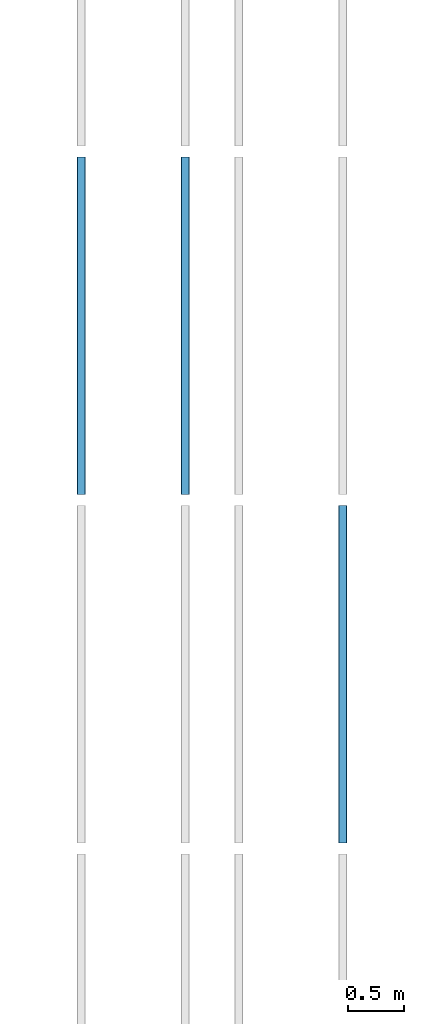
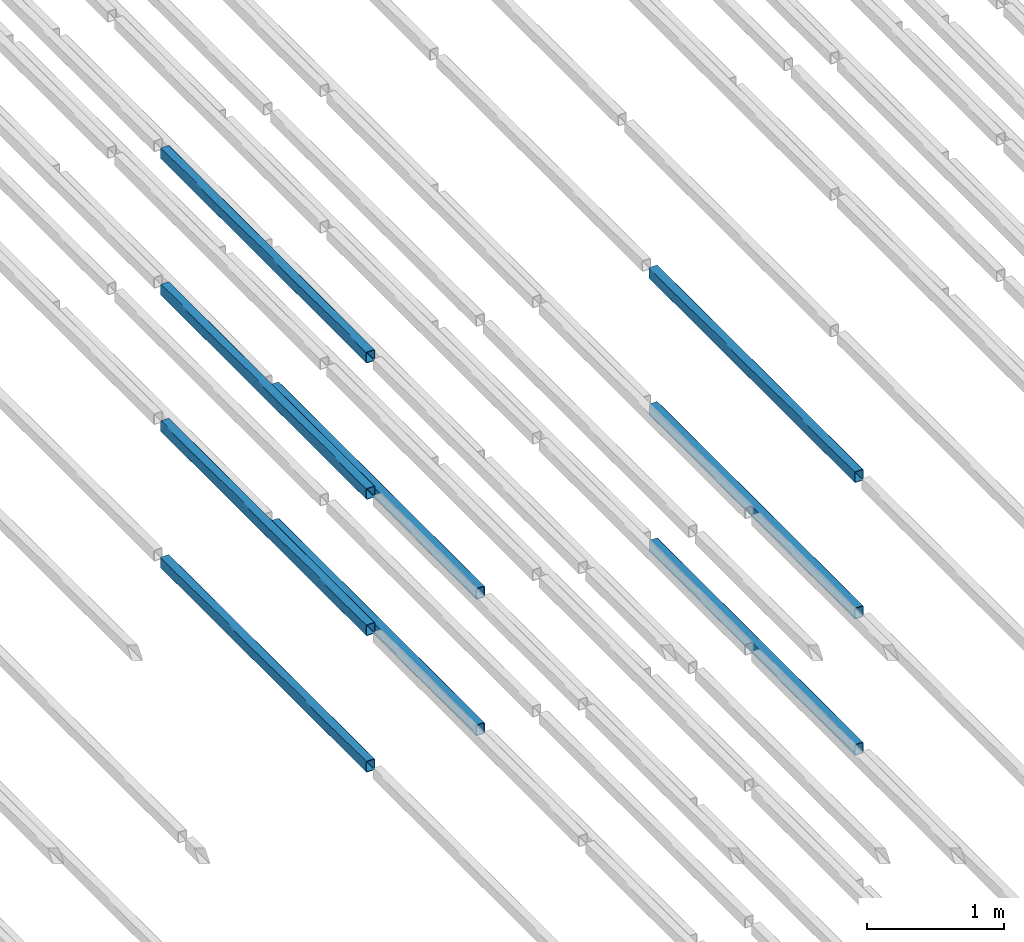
# One storey, part 52 of 290: 9 beams.
"""IFC2X3 building model written with IfcOpenShell, lengths in metres."""

from ifc_helpers import new_model, entity, si_unit, converted_unit, derived_unit, direction, frame, frame_2d, origin, place, context, subcontext, project, spatial, polyline, circle_curve, parameter, trimmed, segment, composite_curve, outline, extrude, material, type_object, element, save


model = new_model("IFC2X3")

# Units and contexts
model_context = context("Model", 3, precision=1e-05, world=origin(), true_north=direction((6.12303176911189e-17, 1.0)))
body_context = subcontext(model_context, "Body", "Model", "MODEL_VIEW")
ifc_project = project(units=[si_unit("LENGTHUNIT", "METRE"), si_unit("AREAUNIT", "SQUARE_METRE"), si_unit("VOLUMEUNIT", "CUBIC_METRE"), converted_unit("PLANEANGLEUNIT", "DEGREE", entity("IfcRatioMeasure", 0.0174532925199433), si_unit("PLANEANGLEUNIT", "RADIAN"), dimensions=[0, 0, 0, 0, 0, 0, 0]), si_unit("MASSUNIT", "GRAM", prefix="KILO"), derived_unit("MASSDENSITYUNIT", [(si_unit("MASSUNIT", "GRAM", prefix="KILO"), 1), (si_unit("LENGTHUNIT", "METRE"), -3)]), derived_unit("MOMENTOFINERTIAUNIT", [(si_unit("LENGTHUNIT", "METRE"), 4)]), si_unit("TIMEUNIT", "SECOND"), si_unit("FREQUENCYUNIT", "HERTZ"), si_unit("THERMODYNAMICTEMPERATUREUNIT", "DEGREE_CELSIUS"), derived_unit("THERMALTRANSMITTANCEUNIT", [(si_unit("MASSUNIT", "GRAM", prefix="KILO"), 1), (si_unit("THERMODYNAMICTEMPERATUREUNIT", "KELVIN"), -1), (si_unit("TIMEUNIT", "SECOND"), -3)]), derived_unit("VOLUMETRICFLOWRATEUNIT", [(si_unit("LENGTHUNIT", "METRE"), 3), (si_unit("TIMEUNIT", "SECOND"), -1)]), si_unit("ELECTRICCURRENTUNIT", "AMPERE"), si_unit("ELECTRICVOLTAGEUNIT", "VOLT"), si_unit("POWERUNIT", "WATT"), si_unit("FORCEUNIT", "NEWTON", prefix="KILO"), si_unit("ILLUMINANCEUNIT", "LUX"), si_unit("LUMINOUSFLUXUNIT", "LUMEN"), si_unit("LUMINOUSINTENSITYUNIT", "CANDELA"), derived_unit("USERDEFINED", [(si_unit("MASSUNIT", "GRAM", prefix="KILO"), -1), (si_unit("LENGTHUNIT", "METRE"), -2), (si_unit("TIMEUNIT", "SECOND"), 3), (si_unit("LUMINOUSFLUXUNIT", "LUMEN"), 1)]), derived_unit("LINEARVELOCITYUNIT", [(si_unit("LENGTHUNIT", "METRE"), 1), (si_unit("TIMEUNIT", "SECOND"), -1)]), si_unit("PRESSUREUNIT", "PASCAL"), derived_unit("USERDEFINED", [(si_unit("LENGTHUNIT", "METRE"), -2), (si_unit("MASSUNIT", "GRAM", prefix="KILO"), 1), (si_unit("TIMEUNIT", "SECOND"), -2)]), derived_unit("LINEARFORCEUNIT", [(si_unit("MASSUNIT", "GRAM", prefix="KILO"), 1), (si_unit("LENGTHUNIT", "METRE"), 1), (si_unit("TIMEUNIT", "SECOND"), -2), (si_unit("LENGTHUNIT", "METRE"), -1)]), derived_unit("PLANARFORCEUNIT", [(si_unit("MASSUNIT", "GRAM", prefix="KILO"), 1), (si_unit("LENGTHUNIT", "METRE"), 1), (si_unit("TIMEUNIT", "SECOND"), -2), (si_unit("LENGTHUNIT", "METRE"), -2)])], contexts=[model_context])

# Site, building, storey
site_placement = place(None, origin())
site = spatial("IfcSite", under=ifc_project, at=site_placement, Name="Default", CompositionType="ELEMENT")
building_placement = place(site_placement, origin())
building = spatial("IfcBuilding", under=site, at=building_placement, CompositionType="ELEMENT")
storey_placement = place(building_placement, frame((0.0, 0.0, 4.0)))
storey = spatial("IfcBuildingStorey", under=building, at=storey_placement, Name="01_OG", CompositionType="ELEMENT", Elevation=4.0)

# Beams
ifc_material = material(Name="Metall - Baustahl S235 blau")
beam_type = type_object("IfcBeamType", Name="RHS Träger (EN 10219-2):RHS 100 x 75 x 5", PredefinedType="NOTDEFINED")
beam_1_placement = place(storey_placement, frame((-188.465111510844, 30.248088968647, 0.0150000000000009), z_axis=(0.0, 0.0, 1.0), x_axis=(0.0, 1.0, 0.0)))
element("IfcBeam", 1, at=beam_1_placement, inside=storey, type_object=beam_type, material=ifc_material, Name="RHS Träger (EN 10219-2):RHS 100 x 75 x 5", ObjectType="RHS Träger (EN 10219-2):RHS 100 x 75 x 5", context=body_context, shape_type="SweptSolid", body=[
    extrude(outline(composite_curve([segment(polyline([(-0.0400000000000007, -0.0374999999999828), (0.0399999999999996, -0.0374999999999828)]), True, "CONTINUOUS"), segment(trimmed(circle_curve(frame_2d((0.0399999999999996, -0.0274999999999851), x_axis=(0.0, 1.0)), 0.01), [parameter(180.0)], [parameter(270.0)], True, "PARAMETER"), True, "CONTINUOUS"), segment(polyline([(0.0499999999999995, -0.0274999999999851), (0.0499999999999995, 0.0274999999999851)]), True, "CONTINUOUS"), segment(trimmed(circle_curve(frame_2d((0.0399999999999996, 0.0274999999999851), x_axis=(0.0, 1.0)), 0.01), [parameter(270.0)], [parameter(4.07110999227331e-13)], True, "PARAMETER"), True, "CONTINUOUS"), segment(polyline([(0.0399999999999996, 0.0375000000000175), (-0.0400000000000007, 0.0375000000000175)]), True, "CONTINUOUS"), segment(trimmed(circle_curve(frame_2d((-0.0400000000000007, 0.0274999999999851), x_axis=(0.0, 1.0)), 0.01), [parameter(360.0)], [parameter(90.0000000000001)], True, "PARAMETER"), True, "CONTINUOUS"), segment(polyline([(-0.0500000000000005, 0.0274999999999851), (-0.0500000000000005, -0.0274999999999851)]), True, "CONTINUOUS"), segment(trimmed(circle_curve(frame_2d((-0.0400000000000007, -0.0274999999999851), x_axis=(0.0, 1.0)), 0.01), [parameter(90.0000000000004)], [parameter(180.0)], True, "PARAMETER"), True, "CONTINUOUS")], self_intersect=False), holes=[composite_curve([segment(trimmed(circle_curve(frame_2d((-0.0400000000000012, 0.0274999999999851), x_axis=(0.0, 1.0)), 0.005), [parameter(360.0)], [parameter(89.9999999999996)], True, "PARAMETER"), False, "CONTINUOUS"), segment(polyline([(-0.0400000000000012, 0.0325000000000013), (0.0399999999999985, 0.0325000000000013)]), True, "CONTINUOUS"), segment(trimmed(circle_curve(frame_2d((0.0399999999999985, 0.0274999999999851), x_axis=(0.0, 1.0)), 0.005), [parameter(270.0)], [parameter(0.0)], True, "PARAMETER"), False, "CONTINUOUS"), segment(polyline([(0.0449999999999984, 0.0274999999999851), (0.0449999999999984, -0.0274999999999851)]), True, "CONTINUOUS"), segment(trimmed(circle_curve(frame_2d((0.0399999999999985, -0.0274999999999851), x_axis=(0.0, 1.0)), 0.005), [parameter(180.0)], [parameter(269.999999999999)], True, "PARAMETER"), False, "CONTINUOUS"), segment(polyline([(0.0399999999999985, -0.0325000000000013), (-0.0400000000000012, -0.0325000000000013)]), True, "CONTINUOUS"), segment(trimmed(circle_curve(frame_2d((-0.0400000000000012, -0.0274999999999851), x_axis=(0.0, 1.0)), 0.005), [parameter(90.0000000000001)], [parameter(180.0)], True, "PARAMETER"), False, "CONTINUOUS"), segment(polyline([(-0.0450000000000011, -0.0274999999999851), (-0.0450000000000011, 0.0274999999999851)]), True, "CONTINUOUS")], self_intersect=False)]), frame((0.000100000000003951, -0.0375000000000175, -0.0500000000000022), z_axis=(1.0, 0.0, 0.0), x_axis=(0.0, 0.0, -1.0)), (0.0, 0.0, 1.0), 2.9998),
])
beam_2_placement = place(storey_placement, frame((-188.465111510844, 30.248088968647, 1.23), z_axis=(0.0, 0.0, 1.0), x_axis=(0.0, 1.0, 0.0)))
element("IfcBeam", 2, at=beam_2_placement, inside=storey, type_object=beam_type, material=ifc_material, Name="RHS Träger (EN 10219-2):RHS 100 x 75 x 5", ObjectType="RHS Träger (EN 10219-2):RHS 100 x 75 x 5", context=body_context, shape_type="SweptSolid", body=[
    extrude(outline(composite_curve([segment(polyline([(-0.0399999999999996, -0.0374999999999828), (0.0399999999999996, -0.0374999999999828)]), True, "CONTINUOUS"), segment(trimmed(circle_curve(frame_2d((0.0399999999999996, -0.0274999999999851), x_axis=(0.0, 1.0)), 0.01), [parameter(180.0)], [parameter(270.0)], True, "PARAMETER"), True, "CONTINUOUS"), segment(polyline([(0.0500000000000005, -0.0274999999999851), (0.0500000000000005, 0.0274999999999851)]), True, "CONTINUOUS"), segment(trimmed(circle_curve(frame_2d((0.0399999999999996, 0.0274999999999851), x_axis=(0.0, 1.0)), 0.01), [parameter(270.0)], [parameter(4.07110999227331e-13)], True, "PARAMETER"), True, "CONTINUOUS"), segment(polyline([(0.0399999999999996, 0.0375000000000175), (-0.0399999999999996, 0.0375000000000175)]), True, "CONTINUOUS"), segment(trimmed(circle_curve(frame_2d((-0.0399999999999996, 0.0274999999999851), x_axis=(0.0, 1.0)), 0.01), [parameter(360.0)], [parameter(90.0000000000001)], True, "PARAMETER"), True, "CONTINUOUS"), segment(polyline([(-0.0499999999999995, 0.0274999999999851), (-0.0499999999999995, -0.0274999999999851)]), True, "CONTINUOUS"), segment(trimmed(circle_curve(frame_2d((-0.0399999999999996, -0.0274999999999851), x_axis=(0.0, 1.0)), 0.01), [parameter(90.0000000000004)], [parameter(180.0)], True, "PARAMETER"), True, "CONTINUOUS")], self_intersect=False), holes=[composite_curve([segment(trimmed(circle_curve(frame_2d((-0.0400000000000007, 0.0274999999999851), x_axis=(0.0, 1.0)), 0.005), [parameter(360.0)], [parameter(89.9999999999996)], True, "PARAMETER"), False, "CONTINUOUS"), segment(polyline([(-0.0400000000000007, 0.0325000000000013), (0.0399999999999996, 0.0325000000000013)]), True, "CONTINUOUS"), segment(trimmed(circle_curve(frame_2d((0.0399999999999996, 0.0274999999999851), x_axis=(0.0, 1.0)), 0.005), [parameter(270.0)], [parameter(0.0)], True, "PARAMETER"), False, "CONTINUOUS"), segment(polyline([(0.0449999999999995, 0.0274999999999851), (0.0449999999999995, -0.0274999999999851)]), True, "CONTINUOUS"), segment(trimmed(circle_curve(frame_2d((0.0399999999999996, -0.0274999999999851), x_axis=(0.0, 1.0)), 0.005), [parameter(180.0)], [parameter(269.999999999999)], True, "PARAMETER"), False, "CONTINUOUS"), segment(polyline([(0.0399999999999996, -0.0325000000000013), (-0.0400000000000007, -0.0325000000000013)]), True, "CONTINUOUS"), segment(trimmed(circle_curve(frame_2d((-0.0400000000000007, -0.0274999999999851), x_axis=(0.0, 1.0)), 0.005), [parameter(90.0000000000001)], [parameter(180.0)], True, "PARAMETER"), False, "CONTINUOUS"), segment(polyline([(-0.0450000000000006, -0.0274999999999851), (-0.0450000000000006, 0.0274999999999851)]), True, "CONTINUOUS")], self_intersect=False)]), frame((0.000100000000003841, -0.0375000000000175, -0.0500000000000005), z_axis=(1.0, 0.0, 0.0), x_axis=(0.0, 0.0, -1.0)), (0.0, 0.0, 1.0), 2.9998),
])
beam_3_placement = place(storey_placement, frame((-188.465111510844, 30.248088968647, 2.445), z_axis=(0.0, 0.0, 1.0), x_axis=(0.0, 1.0, 0.0)))
element("IfcBeam", 3, at=beam_3_placement, inside=storey, type_object=beam_type, material=ifc_material, Name="RHS Träger (EN 10219-2):RHS 100 x 75 x 5", ObjectType="RHS Träger (EN 10219-2):RHS 100 x 75 x 5", context=body_context, shape_type="SweptSolid", body=[
    extrude(outline(composite_curve([segment(polyline([(-0.0399999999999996, -0.0374999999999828), (0.0399999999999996, -0.0374999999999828)]), True, "CONTINUOUS"), segment(trimmed(circle_curve(frame_2d((0.0399999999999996, -0.0274999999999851), x_axis=(0.0, 1.0)), 0.01), [parameter(180.0)], [parameter(270.0)], True, "PARAMETER"), True, "CONTINUOUS"), segment(polyline([(0.0500000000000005, -0.0274999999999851), (0.0500000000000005, 0.0274999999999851)]), True, "CONTINUOUS"), segment(trimmed(circle_curve(frame_2d((0.0399999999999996, 0.0274999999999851), x_axis=(0.0, 1.0)), 0.01), [parameter(270.0)], [parameter(4.07110999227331e-13)], True, "PARAMETER"), True, "CONTINUOUS"), segment(polyline([(0.0399999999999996, 0.0375000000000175), (-0.0399999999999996, 0.0375000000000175)]), True, "CONTINUOUS"), segment(trimmed(circle_curve(frame_2d((-0.0399999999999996, 0.0274999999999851), x_axis=(0.0, 1.0)), 0.01), [parameter(360.0)], [parameter(90.0000000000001)], True, "PARAMETER"), True, "CONTINUOUS"), segment(polyline([(-0.0499999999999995, 0.0274999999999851), (-0.0499999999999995, -0.0274999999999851)]), True, "CONTINUOUS"), segment(trimmed(circle_curve(frame_2d((-0.0399999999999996, -0.0274999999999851), x_axis=(0.0, 1.0)), 0.01), [parameter(90.0000000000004)], [parameter(180.0)], True, "PARAMETER"), True, "CONTINUOUS")], self_intersect=False), holes=[composite_curve([segment(trimmed(circle_curve(frame_2d((-0.0400000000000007, 0.0274999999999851), x_axis=(0.0, 1.0)), 0.005), [parameter(360.0)], [parameter(89.9999999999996)], True, "PARAMETER"), False, "CONTINUOUS"), segment(polyline([(-0.0400000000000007, 0.0325000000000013), (0.0399999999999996, 0.0325000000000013)]), True, "CONTINUOUS"), segment(trimmed(circle_curve(frame_2d((0.0399999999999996, 0.0274999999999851), x_axis=(0.0, 1.0)), 0.005), [parameter(270.0)], [parameter(0.0)], True, "PARAMETER"), False, "CONTINUOUS"), segment(polyline([(0.0449999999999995, 0.0274999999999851), (0.0449999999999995, -0.0274999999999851)]), True, "CONTINUOUS"), segment(trimmed(circle_curve(frame_2d((0.0399999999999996, -0.0274999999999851), x_axis=(0.0, 1.0)), 0.005), [parameter(180.0)], [parameter(269.999999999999)], True, "PARAMETER"), False, "CONTINUOUS"), segment(polyline([(0.0399999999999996, -0.0325000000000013), (-0.0400000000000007, -0.0325000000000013)]), True, "CONTINUOUS"), segment(trimmed(circle_curve(frame_2d((-0.0400000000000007, -0.0274999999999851), x_axis=(0.0, 1.0)), 0.005), [parameter(90.0000000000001)], [parameter(180.0)], True, "PARAMETER"), False, "CONTINUOUS"), segment(polyline([(-0.0450000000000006, -0.0274999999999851), (-0.0450000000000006, 0.0274999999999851)]), True, "CONTINUOUS")], self_intersect=False)]), frame((0.000100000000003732, -0.0375000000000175, -0.0500000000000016), z_axis=(1.0, 0.0, 0.0), x_axis=(0.0, 0.0, -1.0)), (0.0, 0.0, 1.0), 2.9998),
])
beam_4_placement = place(storey_placement, frame((-190.715111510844, 33.348088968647, -1.2), z_axis=(0.0, 0.0, 1.0), x_axis=(0.0, 1.0, 0.0)))
element("IfcBeam", 4, at=beam_4_placement, inside=storey, type_object=beam_type, material=ifc_material, Name="RHS Träger (EN 10219-2):RHS 100 x 75 x 5", ObjectType="RHS Träger (EN 10219-2):RHS 100 x 75 x 5", context=body_context, shape_type="SweptSolid", body=[
    extrude(outline(composite_curve([segment(trimmed(circle_curve(frame_2d((-0.0274999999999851, -0.0400000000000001), x_axis=(1.0, 0.0)), 0.01), [parameter(180.0)], [parameter(270.0)], True, "PARAMETER"), True, "CONTINUOUS"), segment(polyline([(-0.0274999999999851, -0.05), (0.0274999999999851, -0.05)]), True, "CONTINUOUS"), segment(trimmed(circle_curve(frame_2d((0.0274999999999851, -0.0400000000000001), x_axis=(1.0, 0.0)), 0.01), [parameter(270.0)], [parameter(5.08888749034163e-14)], True, "PARAMETER"), True, "CONTINUOUS"), segment(polyline([(0.0375000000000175, -0.0400000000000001), (0.0375000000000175, 0.0400000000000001)]), True, "CONTINUOUS"), segment(trimmed(circle_curve(frame_2d((0.0274999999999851, 0.0400000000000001), x_axis=(1.0, 0.0)), 0.01), [parameter(360.0)], [parameter(89.9999999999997)], True, "PARAMETER"), True, "CONTINUOUS"), segment(polyline([(0.0274999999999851, 0.05), (-0.0274999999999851, 0.05)]), True, "CONTINUOUS"), segment(trimmed(circle_curve(frame_2d((-0.0274999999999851, 0.0400000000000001), x_axis=(1.0, 0.0)), 0.01), [parameter(90.0000000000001)], [parameter(180.0)], True, "PARAMETER"), True, "CONTINUOUS"), segment(polyline([(-0.0374999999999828, 0.0400000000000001), (-0.0374999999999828, -0.0400000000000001)]), True, "CONTINUOUS")], self_intersect=False), holes=[composite_curve([segment(polyline([(0.0274999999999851, -0.0450000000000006), (-0.0274999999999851, -0.0450000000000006)]), True, "CONTINUOUS"), segment(trimmed(circle_curve(frame_2d((-0.0274999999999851, -0.0400000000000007), x_axis=(1.0, 0.0)), 0.005), [parameter(180.0)], [parameter(270.0)], True, "PARAMETER"), False, "CONTINUOUS"), segment(polyline([(-0.0325000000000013, -0.0400000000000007), (-0.0325000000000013, 0.039999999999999)]), True, "CONTINUOUS"), segment(trimmed(circle_curve(frame_2d((-0.0274999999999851, 0.039999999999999), x_axis=(1.0, 0.0)), 0.005), [parameter(90.0000000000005)], [parameter(180.0)], True, "PARAMETER"), False, "CONTINUOUS"), segment(polyline([(-0.0274999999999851, 0.044999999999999), (0.0274999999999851, 0.044999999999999)]), True, "CONTINUOUS"), segment(trimmed(circle_curve(frame_2d((0.0274999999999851, 0.039999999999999), x_axis=(1.0, 0.0)), 0.005), [parameter(0.0)], [parameter(90.0000000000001)], True, "PARAMETER"), False, "CONTINUOUS"), segment(polyline([(0.0325000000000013, 0.039999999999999), (0.0325000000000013, -0.0400000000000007)]), True, "CONTINUOUS"), segment(trimmed(circle_curve(frame_2d((0.0274999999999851, -0.0400000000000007), x_axis=(1.0, 0.0)), 0.005), [parameter(270.0)], [parameter(4.07110999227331e-13)], True, "PARAMETER"), False, "CONTINUOUS")], self_intersect=False)]), frame((9.99999999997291e-05, 0.0375000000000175, -0.0500000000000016), z_axis=(1.0, 0.0, 0.0), x_axis=(0.0, -1.0, 0.0)), (0.0, 0.0, 1.0), 2.9998),
])
beam_5_placement = place(storey_placement, frame((-190.715111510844, 33.348088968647, 0.0150000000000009), z_axis=(0.0, 0.0, 1.0), x_axis=(0.0, 1.0, 0.0)))
element("IfcBeam", 5, at=beam_5_placement, inside=storey, type_object=beam_type, material=ifc_material, Name="RHS Träger (EN 10219-2):RHS 100 x 75 x 5", ObjectType="RHS Träger (EN 10219-2):RHS 100 x 75 x 5", context=body_context, shape_type="SweptSolid", body=[
    extrude(outline(composite_curve([segment(trimmed(circle_curve(frame_2d((-0.0274999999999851, -0.0400000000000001), x_axis=(1.0, 0.0)), 0.01), [parameter(180.0)], [parameter(270.0)], True, "PARAMETER"), True, "CONTINUOUS"), segment(polyline([(-0.0274999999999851, -0.05), (0.0274999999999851, -0.05)]), True, "CONTINUOUS"), segment(trimmed(circle_curve(frame_2d((0.0274999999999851, -0.0400000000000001), x_axis=(1.0, 0.0)), 0.01), [parameter(270.0)], [parameter(5.08888749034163e-14)], True, "PARAMETER"), True, "CONTINUOUS"), segment(polyline([(0.0375000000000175, -0.0400000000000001), (0.0375000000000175, 0.0400000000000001)]), True, "CONTINUOUS"), segment(trimmed(circle_curve(frame_2d((0.0274999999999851, 0.0400000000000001), x_axis=(1.0, 0.0)), 0.01), [parameter(360.0)], [parameter(89.9999999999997)], True, "PARAMETER"), True, "CONTINUOUS"), segment(polyline([(0.0274999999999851, 0.05), (-0.0274999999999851, 0.05)]), True, "CONTINUOUS"), segment(trimmed(circle_curve(frame_2d((-0.0274999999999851, 0.0400000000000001), x_axis=(1.0, 0.0)), 0.01), [parameter(90.0000000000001)], [parameter(180.0)], True, "PARAMETER"), True, "CONTINUOUS"), segment(polyline([(-0.0374999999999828, 0.0400000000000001), (-0.0374999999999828, -0.0400000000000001)]), True, "CONTINUOUS")], self_intersect=False), holes=[composite_curve([segment(polyline([(0.0274999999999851, -0.0450000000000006), (-0.0274999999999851, -0.0450000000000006)]), True, "CONTINUOUS"), segment(trimmed(circle_curve(frame_2d((-0.0274999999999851, -0.0400000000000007), x_axis=(1.0, 0.0)), 0.005), [parameter(180.0)], [parameter(270.0)], True, "PARAMETER"), False, "CONTINUOUS"), segment(polyline([(-0.0325000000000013, -0.0400000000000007), (-0.0325000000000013, 0.039999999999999)]), True, "CONTINUOUS"), segment(trimmed(circle_curve(frame_2d((-0.0274999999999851, 0.039999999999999), x_axis=(1.0, 0.0)), 0.005), [parameter(90.0000000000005)], [parameter(180.0)], True, "PARAMETER"), False, "CONTINUOUS"), segment(polyline([(-0.0274999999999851, 0.044999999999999), (0.0274999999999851, 0.044999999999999)]), True, "CONTINUOUS"), segment(trimmed(circle_curve(frame_2d((0.0274999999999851, 0.039999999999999), x_axis=(1.0, 0.0)), 0.005), [parameter(0.0)], [parameter(90.0000000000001)], True, "PARAMETER"), False, "CONTINUOUS"), segment(polyline([(0.0325000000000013, 0.039999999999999), (0.0325000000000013, -0.0400000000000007)]), True, "CONTINUOUS"), segment(trimmed(circle_curve(frame_2d((0.0274999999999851, -0.0400000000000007), x_axis=(1.0, 0.0)), 0.005), [parameter(270.0)], [parameter(4.07110999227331e-13)], True, "PARAMETER"), False, "CONTINUOUS")], self_intersect=False)]), frame((9.99999999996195e-05, 0.0375000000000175, -0.0500000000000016), z_axis=(1.0, 0.0, 0.0), x_axis=(0.0, -1.0, 0.0)), (0.0, 0.0, 1.0), 2.9998),
])
beam_6_placement = place(storey_placement, frame((-190.715111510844, 33.348088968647, 1.23), z_axis=(0.0, 0.0, 1.0), x_axis=(0.0, 1.0, 0.0)))
element("IfcBeam", 6, at=beam_6_placement, inside=storey, type_object=beam_type, material=ifc_material, Name="RHS Träger (EN 10219-2):RHS 100 x 75 x 5", ObjectType="RHS Träger (EN 10219-2):RHS 100 x 75 x 5", context=body_context, shape_type="SweptSolid", body=[
    extrude(outline(composite_curve([segment(trimmed(circle_curve(frame_2d((-0.0274999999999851, -0.0399999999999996), x_axis=(1.0, 0.0)), 0.01), [parameter(180.0)], [parameter(270.0)], True, "PARAMETER"), True, "CONTINUOUS"), segment(polyline([(-0.0274999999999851, -0.0499999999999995), (0.0274999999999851, -0.0499999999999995)]), True, "CONTINUOUS"), segment(trimmed(circle_curve(frame_2d((0.0274999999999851, -0.0399999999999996), x_axis=(1.0, 0.0)), 0.01), [parameter(270.0)], [parameter(5.08888749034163e-14)], True, "PARAMETER"), True, "CONTINUOUS"), segment(polyline([(0.0375000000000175, -0.0399999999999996), (0.0375000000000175, 0.0399999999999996)]), True, "CONTINUOUS"), segment(trimmed(circle_curve(frame_2d((0.0274999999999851, 0.0399999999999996), x_axis=(1.0, 0.0)), 0.01), [parameter(360.0)], [parameter(89.9999999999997)], True, "PARAMETER"), True, "CONTINUOUS"), segment(polyline([(0.0274999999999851, 0.0500000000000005), (-0.0274999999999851, 0.0500000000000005)]), True, "CONTINUOUS"), segment(trimmed(circle_curve(frame_2d((-0.0274999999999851, 0.0399999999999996), x_axis=(1.0, 0.0)), 0.01), [parameter(90.0000000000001)], [parameter(180.0)], True, "PARAMETER"), True, "CONTINUOUS"), segment(polyline([(-0.0374999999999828, 0.0399999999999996), (-0.0374999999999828, -0.0399999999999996)]), True, "CONTINUOUS")], self_intersect=False), holes=[composite_curve([segment(polyline([(0.0274999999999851, -0.0450000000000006), (-0.0274999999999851, -0.0450000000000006)]), True, "CONTINUOUS"), segment(trimmed(circle_curve(frame_2d((-0.0274999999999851, -0.0400000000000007), x_axis=(1.0, 0.0)), 0.005), [parameter(180.0)], [parameter(270.0)], True, "PARAMETER"), False, "CONTINUOUS"), segment(polyline([(-0.0325000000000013, -0.0400000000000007), (-0.0325000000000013, 0.0399999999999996)]), True, "CONTINUOUS"), segment(trimmed(circle_curve(frame_2d((-0.0274999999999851, 0.0399999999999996), x_axis=(1.0, 0.0)), 0.005), [parameter(90.0000000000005)], [parameter(180.0)], True, "PARAMETER"), False, "CONTINUOUS"), segment(polyline([(-0.0274999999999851, 0.0449999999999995), (0.0274999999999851, 0.0449999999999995)]), True, "CONTINUOUS"), segment(trimmed(circle_curve(frame_2d((0.0274999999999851, 0.0399999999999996), x_axis=(1.0, 0.0)), 0.005), [parameter(0.0)], [parameter(90.0000000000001)], True, "PARAMETER"), False, "CONTINUOUS"), segment(polyline([(0.0325000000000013, 0.0399999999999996), (0.0325000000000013, -0.0400000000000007)]), True, "CONTINUOUS"), segment(trimmed(circle_curve(frame_2d((0.0274999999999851, -0.0400000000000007), x_axis=(1.0, 0.0)), 0.005), [parameter(270.0)], [parameter(4.07110999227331e-13)], True, "PARAMETER"), False, "CONTINUOUS")], self_intersect=False)]), frame((9.99999999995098e-05, 0.0375000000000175, -0.0500000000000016), z_axis=(1.0, 0.0, 0.0), x_axis=(0.0, -1.0, 0.0)), (0.0, 0.0, 1.0), 2.9998),
])
beam_7_placement = place(storey_placement, frame((-190.715111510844, 33.348088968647, 2.445), z_axis=(0.0, 0.0, 1.0), x_axis=(0.0, 1.0, 0.0)))
element("IfcBeam", 7, at=beam_7_placement, inside=storey, type_object=beam_type, material=ifc_material, Name="RHS Träger (EN 10219-2):RHS 100 x 75 x 5", ObjectType="RHS Träger (EN 10219-2):RHS 100 x 75 x 5", context=body_context, shape_type="SweptSolid", body=[
    extrude(outline(composite_curve([segment(trimmed(circle_curve(frame_2d((-0.0274999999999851, -0.0399999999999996), x_axis=(1.0, 0.0)), 0.01), [parameter(180.0)], [parameter(270.0)], True, "PARAMETER"), True, "CONTINUOUS"), segment(polyline([(-0.0274999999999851, -0.0499999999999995), (0.0274999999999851, -0.0499999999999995)]), True, "CONTINUOUS"), segment(trimmed(circle_curve(frame_2d((0.0274999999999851, -0.0399999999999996), x_axis=(1.0, 0.0)), 0.01), [parameter(270.0)], [parameter(5.08888749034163e-14)], True, "PARAMETER"), True, "CONTINUOUS"), segment(polyline([(0.0375000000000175, -0.0399999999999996), (0.0375000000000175, 0.0399999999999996)]), True, "CONTINUOUS"), segment(trimmed(circle_curve(frame_2d((0.0274999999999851, 0.0399999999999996), x_axis=(1.0, 0.0)), 0.01), [parameter(360.0)], [parameter(89.9999999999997)], True, "PARAMETER"), True, "CONTINUOUS"), segment(polyline([(0.0274999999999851, 0.0500000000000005), (-0.0274999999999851, 0.0500000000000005)]), True, "CONTINUOUS"), segment(trimmed(circle_curve(frame_2d((-0.0274999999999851, 0.0399999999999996), x_axis=(1.0, 0.0)), 0.01), [parameter(90.0000000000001)], [parameter(180.0)], True, "PARAMETER"), True, "CONTINUOUS"), segment(polyline([(-0.0374999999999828, 0.0399999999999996), (-0.0374999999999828, -0.0399999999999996)]), True, "CONTINUOUS")], self_intersect=False), holes=[composite_curve([segment(polyline([(0.0274999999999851, -0.0450000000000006), (-0.0274999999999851, -0.0450000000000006)]), True, "CONTINUOUS"), segment(trimmed(circle_curve(frame_2d((-0.0274999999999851, -0.0400000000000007), x_axis=(1.0, 0.0)), 0.005), [parameter(180.0)], [parameter(270.0)], True, "PARAMETER"), False, "CONTINUOUS"), segment(polyline([(-0.0325000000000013, -0.0400000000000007), (-0.0325000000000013, 0.0399999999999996)]), True, "CONTINUOUS"), segment(trimmed(circle_curve(frame_2d((-0.0274999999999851, 0.0399999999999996), x_axis=(1.0, 0.0)), 0.005), [parameter(90.0000000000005)], [parameter(180.0)], True, "PARAMETER"), False, "CONTINUOUS"), segment(polyline([(-0.0274999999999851, 0.0449999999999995), (0.0274999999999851, 0.0449999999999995)]), True, "CONTINUOUS"), segment(trimmed(circle_curve(frame_2d((0.0274999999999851, 0.0399999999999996), x_axis=(1.0, 0.0)), 0.005), [parameter(0.0)], [parameter(90.0000000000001)], True, "PARAMETER"), False, "CONTINUOUS"), segment(polyline([(0.0325000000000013, 0.0399999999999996), (0.0325000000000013, -0.0400000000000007)]), True, "CONTINUOUS"), segment(trimmed(circle_curve(frame_2d((0.0274999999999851, -0.0400000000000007), x_axis=(1.0, 0.0)), 0.005), [parameter(270.0)], [parameter(4.07110999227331e-13)], True, "PARAMETER"), False, "CONTINUOUS")], self_intersect=False)]), frame((9.99999999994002e-05, 0.0375000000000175, -0.0500000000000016), z_axis=(1.0, 0.0, 0.0), x_axis=(0.0, -1.0, 0.0)), (0.0, 0.0, 1.0), 2.9998),
])
beam_8_placement = place(storey_placement, frame((-189.865111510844, 33.348088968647, -1.2), z_axis=(0.0, 0.0, 1.0), x_axis=(0.0, 1.0, 0.0)))
element("IfcBeam", 8, at=beam_8_placement, inside=storey, type_object=beam_type, material=ifc_material, Name="RHS Träger (EN 10219-2):RHS 100 x 75 x 5", ObjectType="RHS Träger (EN 10219-2):RHS 100 x 75 x 5", context=body_context, shape_type="SweptSolid", body=[
    extrude(outline(composite_curve([segment(polyline([(-0.0400000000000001, -0.0375000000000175), (0.0400000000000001, -0.0375000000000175)]), True, "CONTINUOUS"), segment(trimmed(circle_curve(frame_2d((0.0400000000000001, -0.0275000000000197), x_axis=(0.0, 1.0)), 0.01), [parameter(180.0)], [parameter(270.0)], True, "PARAMETER"), True, "CONTINUOUS"), segment(polyline([(0.05, -0.0275000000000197), (0.05, 0.0274999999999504)]), True, "CONTINUOUS"), segment(trimmed(circle_curve(frame_2d((0.0400000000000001, 0.0274999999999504), x_axis=(0.0, 1.0)), 0.01), [parameter(270.0)], [parameter(4.07110999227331e-13)], True, "PARAMETER"), True, "CONTINUOUS"), segment(polyline([(0.0400000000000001, 0.0374999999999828), (-0.0400000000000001, 0.0374999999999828)]), True, "CONTINUOUS"), segment(trimmed(circle_curve(frame_2d((-0.0400000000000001, 0.0274999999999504), x_axis=(0.0, 1.0)), 0.01), [parameter(360.0)], [parameter(90.0000000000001)], True, "PARAMETER"), True, "CONTINUOUS"), segment(polyline([(-0.05, 0.0274999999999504), (-0.05, -0.0275000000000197)]), True, "CONTINUOUS"), segment(trimmed(circle_curve(frame_2d((-0.0400000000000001, -0.0275000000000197), x_axis=(0.0, 1.0)), 0.01), [parameter(90.0000000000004)], [parameter(180.0)], True, "PARAMETER"), True, "CONTINUOUS")], self_intersect=False), holes=[composite_curve([segment(trimmed(circle_curve(frame_2d((-0.0400000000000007, 0.0274999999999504), x_axis=(0.0, 1.0)), 0.005), [parameter(360.0)], [parameter(89.9999999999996)], True, "PARAMETER"), False, "CONTINUOUS"), segment(polyline([(-0.0400000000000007, 0.0324999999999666), (0.039999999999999, 0.0324999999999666)]), True, "CONTINUOUS"), segment(trimmed(circle_curve(frame_2d((0.039999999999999, 0.0274999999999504), x_axis=(0.0, 1.0)), 0.005), [parameter(270.0)], [parameter(0.0)], True, "PARAMETER"), False, "CONTINUOUS"), segment(polyline([(0.044999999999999, 0.0274999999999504), (0.044999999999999, -0.0275000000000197)]), True, "CONTINUOUS"), segment(trimmed(circle_curve(frame_2d((0.039999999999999, -0.0275000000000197), x_axis=(0.0, 1.0)), 0.005), [parameter(180.0)], [parameter(269.999999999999)], True, "PARAMETER"), False, "CONTINUOUS"), segment(polyline([(0.039999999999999, -0.0325000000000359), (-0.0400000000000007, -0.0325000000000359)]), True, "CONTINUOUS"), segment(trimmed(circle_curve(frame_2d((-0.0400000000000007, -0.0275000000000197), x_axis=(0.0, 1.0)), 0.005), [parameter(90.0000000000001)], [parameter(180.0)], True, "PARAMETER"), False, "CONTINUOUS"), segment(polyline([(-0.0450000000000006, -0.0275000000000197), (-0.0450000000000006, 0.0274999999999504)]), True, "CONTINUOUS")], self_intersect=False)]), frame((9.99999999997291e-05, -0.0374999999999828, -0.0500000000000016), z_axis=(1.0, 0.0, 0.0), x_axis=(0.0, 0.0, -1.0)), (0.0, 0.0, 1.0), 2.9998),
])
beam_9_placement = place(storey_placement, frame((-189.865111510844, 33.348088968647, 0.0150000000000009), z_axis=(0.0, 0.0, 1.0), x_axis=(0.0, 1.0, 0.0)))
element("IfcBeam", 9, at=beam_9_placement, inside=storey, type_object=beam_type, material=ifc_material, Name="RHS Träger (EN 10219-2):RHS 100 x 75 x 5", ObjectType="RHS Träger (EN 10219-2):RHS 100 x 75 x 5", context=body_context, shape_type="SweptSolid", body=[
    extrude(outline(composite_curve([segment(polyline([(-0.0400000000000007, -0.0375000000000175), (0.0399999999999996, -0.0375000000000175)]), True, "CONTINUOUS"), segment(trimmed(circle_curve(frame_2d((0.0399999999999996, -0.0275000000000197), x_axis=(0.0, 1.0)), 0.01), [parameter(180.0)], [parameter(270.0)], True, "PARAMETER"), True, "CONTINUOUS"), segment(polyline([(0.0499999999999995, -0.0275000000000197), (0.0499999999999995, 0.0274999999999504)]), True, "CONTINUOUS"), segment(trimmed(circle_curve(frame_2d((0.0399999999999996, 0.0274999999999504), x_axis=(0.0, 1.0)), 0.01), [parameter(270.0)], [parameter(4.07110999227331e-13)], True, "PARAMETER"), True, "CONTINUOUS"), segment(polyline([(0.0399999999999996, 0.0374999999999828), (-0.0400000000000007, 0.0374999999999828)]), True, "CONTINUOUS"), segment(trimmed(circle_curve(frame_2d((-0.0400000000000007, 0.0274999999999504), x_axis=(0.0, 1.0)), 0.01), [parameter(360.0)], [parameter(90.0000000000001)], True, "PARAMETER"), True, "CONTINUOUS"), segment(polyline([(-0.0500000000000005, 0.0274999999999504), (-0.0500000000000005, -0.0275000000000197)]), True, "CONTINUOUS"), segment(trimmed(circle_curve(frame_2d((-0.0400000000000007, -0.0275000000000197), x_axis=(0.0, 1.0)), 0.01), [parameter(90.0000000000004)], [parameter(180.0)], True, "PARAMETER"), True, "CONTINUOUS")], self_intersect=False), holes=[composite_curve([segment(trimmed(circle_curve(frame_2d((-0.0400000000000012, 0.0274999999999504), x_axis=(0.0, 1.0)), 0.005), [parameter(360.0)], [parameter(89.9999999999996)], True, "PARAMETER"), False, "CONTINUOUS"), segment(polyline([(-0.0400000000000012, 0.0324999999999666), (0.0399999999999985, 0.0324999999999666)]), True, "CONTINUOUS"), segment(trimmed(circle_curve(frame_2d((0.0399999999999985, 0.0274999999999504), x_axis=(0.0, 1.0)), 0.005), [parameter(270.0)], [parameter(0.0)], True, "PARAMETER"), False, "CONTINUOUS"), segment(polyline([(0.0449999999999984, 0.0274999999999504), (0.0449999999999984, -0.0275000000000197)]), True, "CONTINUOUS"), segment(trimmed(circle_curve(frame_2d((0.0399999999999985, -0.0275000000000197), x_axis=(0.0, 1.0)), 0.005), [parameter(180.0)], [parameter(269.999999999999)], True, "PARAMETER"), False, "CONTINUOUS"), segment(polyline([(0.0399999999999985, -0.0325000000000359), (-0.0400000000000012, -0.0325000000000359)]), True, "CONTINUOUS"), segment(trimmed(circle_curve(frame_2d((-0.0400000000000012, -0.0275000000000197), x_axis=(0.0, 1.0)), 0.005), [parameter(90.0000000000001)], [parameter(180.0)], True, "PARAMETER"), False, "CONTINUOUS"), segment(polyline([(-0.0450000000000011, -0.0275000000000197), (-0.0450000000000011, 0.0274999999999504)]), True, "CONTINUOUS")], self_intersect=False)]), frame((9.99999999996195e-05, -0.0374999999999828, -0.0500000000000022), z_axis=(1.0, 0.0, 0.0), x_axis=(0.0, 0.0, -1.0)), (0.0, 0.0, 1.0), 2.9998),
])

save(model, "model.ifc")
